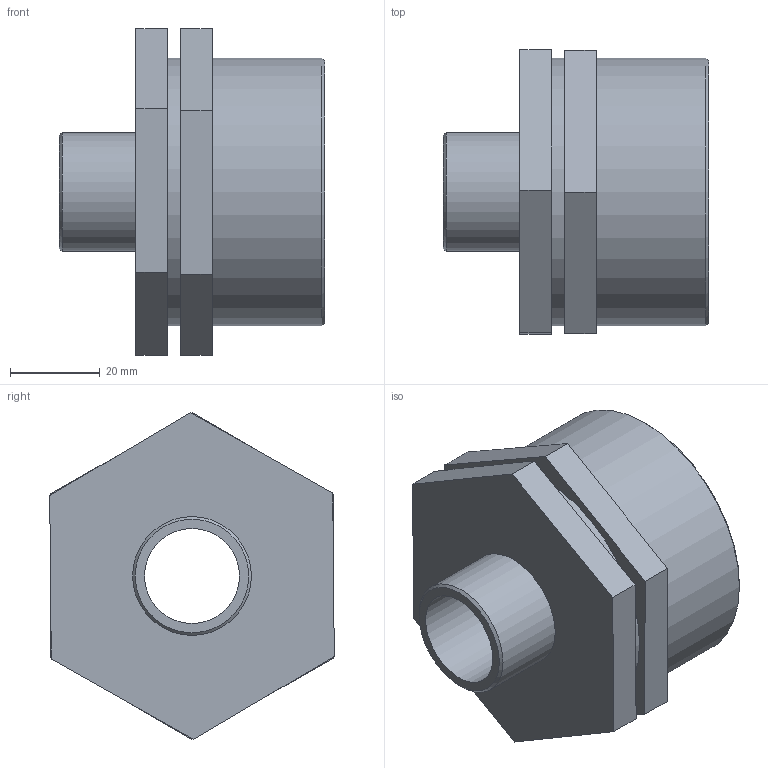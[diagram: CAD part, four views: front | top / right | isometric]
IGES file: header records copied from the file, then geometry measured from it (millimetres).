
Global section: file name: 050605020007_0506050200070A.ipt; native system: Autodesk Inventor 2015; preprocessor: unknown; author: KIM; date: 20170618.093235; units: millimetre
Bounding box: 59 x 63.34 x 72.75 mm (x, y, z)
Volume: 64674.2 mm3; surface area: 23919.2 mm2
Topology: 1 solids, 1 shells, 26 faces, 59 edges, 40 vertices
Faces by surface type: plane 19, cylinder 3, cone 2, revolution 2
Full cylindrical faces by diameter (mm): 26.441 x1, 59.614 x2
